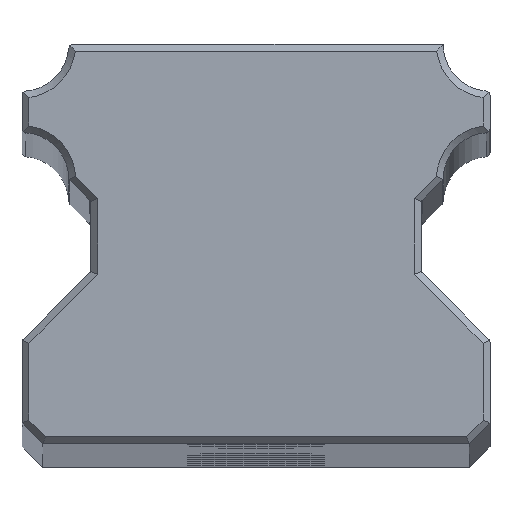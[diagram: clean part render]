
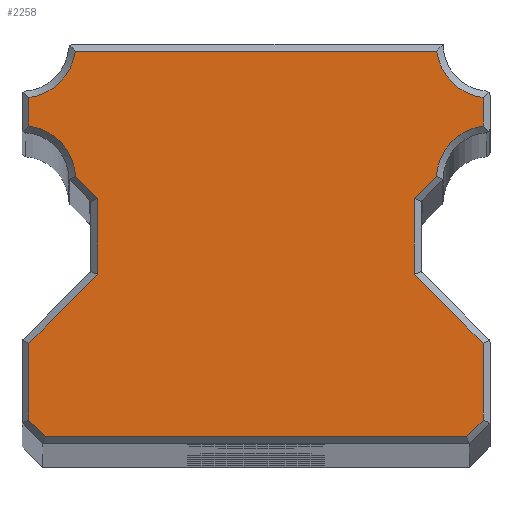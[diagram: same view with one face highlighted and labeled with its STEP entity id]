
A CAD part, top view. The second image highlights one B-rep face of the part: STEP entity #2258.
In plain terms, the highlighted planar face has unit normal (0, 0, 1).
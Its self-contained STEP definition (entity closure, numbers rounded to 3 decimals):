
#57=CIRCLE('',#2394,3.9);
#61=CIRCLE('',#2440,3.9);
#76=CIRCLE('',#2469,3.9);
#77=CIRCLE('',#2472,3.9);
#256=PLANE('',#2476);
#335=FACE_OUTER_BOUND('',#482,.T.);
#482=EDGE_LOOP('',(#1789,#1790,#1791,#1792,#1793,#1794,#1795,#1796,#1797,
#1798,#1799,#1800,#1801,#1802,#1803,#1804,#1805,#1806));
#607=LINE('',#3434,#766);
#616=LINE('',#3502,#775);
#625=LINE('',#3583,#784);
#652=LINE('',#3704,#811);
#659=LINE('',#3809,#818);
#661=LINE('',#3818,#820);
#666=LINE('',#3828,#825);
#670=LINE('',#3835,#829);
#672=LINE('',#3840,#831);
#674=LINE('',#3843,#833);
#676=LINE('',#3846,#835);
#678=LINE('',#3850,#837);
#680=LINE('',#3853,#839);
#681=LINE('',#3858,#840);
#766=VECTOR('',#2696,10.);
#775=VECTOR('',#2721,10.);
#784=VECTOR('',#2762,10.);
#811=VECTOR('',#2849,10.);
#818=VECTOR('',#2910,10.);
#820=VECTOR('',#2914,10.);
#825=VECTOR('',#2921,10.);
#829=VECTOR('',#2927,10.);
#831=VECTOR('',#2931,10.);
#833=VECTOR('',#2935,10.);
#835=VECTOR('',#2939,10.);
#837=VECTOR('',#2943,10.);
#839=VECTOR('',#2947,10.);
#840=VECTOR('',#2956,10.);
#970=VERTEX_POINT('',#3431);
#971=VERTEX_POINT('',#3433);
#985=VERTEX_POINT('',#3496);
#986=VERTEX_POINT('',#3501);
#994=VERTEX_POINT('',#3550);
#1002=VERTEX_POINT('',#3582);
#1037=VERTEX_POINT('',#3698);
#1038=VERTEX_POINT('',#3703);
#1046=VERTEX_POINT('',#3754);
#1065=VERTEX_POINT('',#3808);
#1066=VERTEX_POINT('',#3815);
#1067=VERTEX_POINT('',#3817);
#1070=VERTEX_POINT('',#3825);
#1071=VERTEX_POINT('',#3827);
#1073=VERTEX_POINT('',#3833);
#1074=VERTEX_POINT('',#3837);
#1075=VERTEX_POINT('',#3839);
#1076=VERTEX_POINT('',#3849);
#1191=EDGE_CURVE('',#970,#971,#607,.T.);
#1210=EDGE_CURVE('',#985,#986,#616,.T.);
#1222=EDGE_CURVE('',#986,#994,#57,.T.);
#1234=EDGE_CURVE('',#994,#1002,#625,.T.);
#1283=EDGE_CURVE('',#1037,#1038,#652,.T.);
#1295=EDGE_CURVE('',#1038,#1046,#61,.T.);
#1317=EDGE_CURVE('',#1046,#1065,#659,.T.);
#1320=EDGE_CURVE('',#1066,#1067,#661,.T.);
#1325=EDGE_CURVE('',#1070,#1071,#666,.T.);
#1329=EDGE_CURVE('',#1073,#1070,#670,.T.);
#1331=EDGE_CURVE('',#1074,#1075,#672,.T.);
#1333=EDGE_CURVE('',#1075,#1073,#674,.T.);
#1335=EDGE_CURVE('',#1002,#1074,#676,.T.);
#1337=EDGE_CURVE('',#1071,#1076,#678,.T.);
#1339=EDGE_CURVE('',#1076,#1066,#680,.T.);
#1341=EDGE_CURVE('',#1065,#985,#76,.T.);
#1342=EDGE_CURVE('',#1067,#970,#681,.T.);
#1343=EDGE_CURVE('',#971,#1037,#77,.T.);
#1789=ORIENTED_EDGE('',*,*,#1331,.F.);
#1790=ORIENTED_EDGE('',*,*,#1335,.F.);
#1791=ORIENTED_EDGE('',*,*,#1234,.F.);
#1792=ORIENTED_EDGE('',*,*,#1222,.F.);
#1793=ORIENTED_EDGE('',*,*,#1210,.F.);
#1794=ORIENTED_EDGE('',*,*,#1341,.F.);
#1795=ORIENTED_EDGE('',*,*,#1317,.F.);
#1796=ORIENTED_EDGE('',*,*,#1295,.F.);
#1797=ORIENTED_EDGE('',*,*,#1283,.F.);
#1798=ORIENTED_EDGE('',*,*,#1343,.F.);
#1799=ORIENTED_EDGE('',*,*,#1191,.F.);
#1800=ORIENTED_EDGE('',*,*,#1342,.F.);
#1801=ORIENTED_EDGE('',*,*,#1320,.F.);
#1802=ORIENTED_EDGE('',*,*,#1339,.F.);
#1803=ORIENTED_EDGE('',*,*,#1337,.F.);
#1804=ORIENTED_EDGE('',*,*,#1325,.F.);
#1805=ORIENTED_EDGE('',*,*,#1329,.F.);
#1806=ORIENTED_EDGE('',*,*,#1333,.F.);
#2258=ADVANCED_FACE('',(#335),#256,.T.);
#2394=AXIS2_PLACEMENT_3D('',#3551,#2740,#2741);
#2440=AXIS2_PLACEMENT_3D('',#3755,#2868,#2869);
#2469=AXIS2_PLACEMENT_3D('',#3856,#2952,#2953);
#2472=AXIS2_PLACEMENT_3D('',#3860,#2959,#2960);
#2476=AXIS2_PLACEMENT_3D('',#3864,#2967,#2968);
#2696=DIRECTION('',(-0.707,0.707,0.));
#2721=DIRECTION('',(0.,-1.,0.));
#2740=DIRECTION('center_axis',(0.,0.,1.));
#2741=DIRECTION('ref_axis',(0.,1.,0.));
#2762=DIRECTION('',(-0.707,-0.707,0.));
#2849=DIRECTION('',(0.,1.,0.));
#2868=DIRECTION('center_axis',(0.,0.,1.));
#2869=DIRECTION('ref_axis',(1.,0.,0.));
#2910=DIRECTION('',(1.,0.,0.));
#2914=DIRECTION('',(0.707,0.707,0.));
#2921=DIRECTION('',(-1.,0.,0.));
#2927=DIRECTION('',(-0.707,-0.707,0.));
#2931=DIRECTION('',(0.707,-0.707,0.));
#2935=DIRECTION('',(0.,-1.,0.));
#2939=DIRECTION('',(0.,-1.,0.));
#2943=DIRECTION('',(-0.707,0.707,0.));
#2947=DIRECTION('',(0.,1.,0.));
#2952=DIRECTION('center_axis',(0.,0.,1.));
#2953=DIRECTION('ref_axis',(-1.,0.,0.));
#2956=DIRECTION('',(0.,1.,0.));
#2959=DIRECTION('center_axis',(0.,0.,1.));
#2960=DIRECTION('ref_axis',(0.,1.,0.));
#2967=DIRECTION('center_axis',(0.,0.,1.));
#2968=DIRECTION('ref_axis',(1.,0.,0.));
#3431=CARTESIAN_POINT('',(-11.5,17.807,0.));
#3433=CARTESIAN_POINT('',(-13.106,19.413,0.));
#3434=CARTESIAN_POINT('',(-6.546,12.854,0.));
#3496=CARTESIAN_POINT('',(16.5,25.132,0.));
#3501=CARTESIAN_POINT('',(16.5,23.068,0.));
#3502=CARTESIAN_POINT('',(16.5,20.05,0.));
#3550=CARTESIAN_POINT('',(13.106,19.413,0.));
#3551=CARTESIAN_POINT('Origin',(17.,19.2,0.));
#3582=CARTESIAN_POINT('',(11.5,17.807,0.));
#3583=CARTESIAN_POINT('',(10.796,17.104,0.));
#3698=CARTESIAN_POINT('',(-16.5,23.068,0.));
#3703=CARTESIAN_POINT('',(-16.5,25.132,0.));
#3704=CARTESIAN_POINT('',(-16.5,20.05,0.));
#3754=CARTESIAN_POINT('',(-13.132,28.5,0.));
#3755=CARTESIAN_POINT('Origin',(-17.,29.,0.));
#3808=CARTESIAN_POINT('',(13.132,28.5,0.));
#3809=CARTESIAN_POINT('',(4.25,28.5,0.));
#3815=CARTESIAN_POINT('',(-16.5,7.293,0.));
#3817=CARTESIAN_POINT('',(-11.5,12.293,0.));
#3818=CARTESIAN_POINT('',(-6.021,17.771,0.));
#3825=CARTESIAN_POINT('',(15.293,0.5,0.));
#3827=CARTESIAN_POINT('',(-15.293,0.5,0.));
#3828=CARTESIAN_POINT('',(12.,0.5,0.));
#3833=CARTESIAN_POINT('',(16.5,1.707,0.));
#3835=CARTESIAN_POINT('',(17.771,2.979,0.));
#3837=CARTESIAN_POINT('',(11.5,12.293,0.));
#3839=CARTESIAN_POINT('',(16.5,7.293,0.));
#3840=CARTESIAN_POINT('',(10.271,13.521,0.));
#3843=CARTESIAN_POINT('',(16.5,11.,0.));
#3846=CARTESIAN_POINT('',(11.5,16.05,0.));
#3849=CARTESIAN_POINT('',(-16.5,1.707,0.));
#3850=CARTESIAN_POINT('',(-13.521,-1.271,0.));
#3853=CARTESIAN_POINT('',(-16.5,11.,0.));
#3856=CARTESIAN_POINT('Origin',(17.,29.,0.));
#3858=CARTESIAN_POINT('',(-11.5,16.05,0.));
#3860=CARTESIAN_POINT('Origin',(-17.,19.2,0.));
#3864=CARTESIAN_POINT('Origin',(8.5,14.5,0.));
